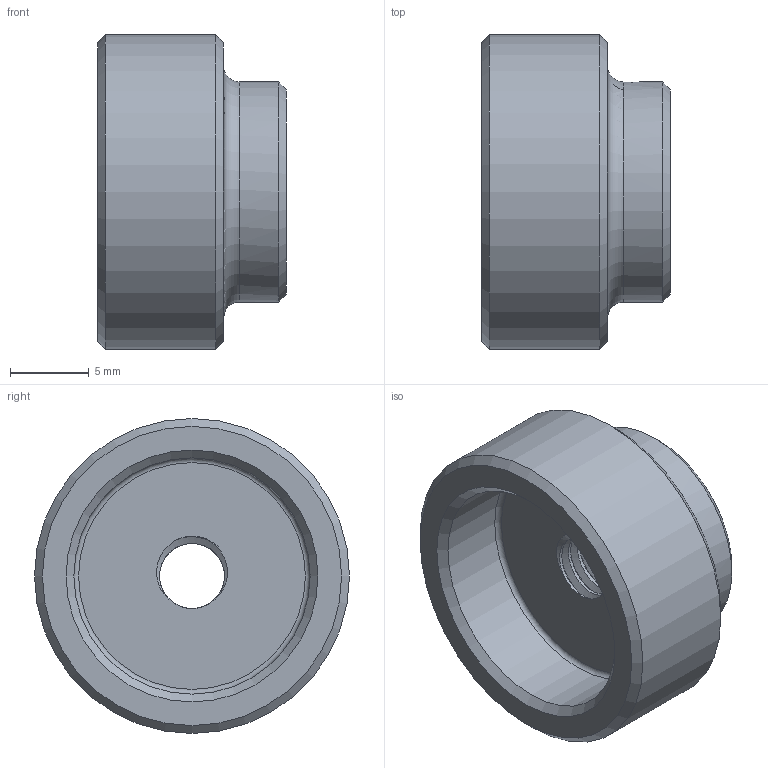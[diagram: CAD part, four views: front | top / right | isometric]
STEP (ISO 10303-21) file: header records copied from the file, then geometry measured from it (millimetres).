
FILE_DESCRIPTION(('STEP AP203'), '1');
FILE_NAME('À00080.1051', '2025-03-13T10:05:17', ('1'), (''), 'C3D Converter', 'C3D Toolkit', '');
FILE_SCHEMA(('CONFIG_CONTROL_DESIGN'));
Length unit declared in the file: millimetre
Bounding box: 12 x 20 x 20 mm (x, y, z)
Volume: 2103.7 mm3; surface area: 1590.8 mm2
Topology: 1 solids, 1 shells, 28 faces, 73 edges, 50 vertices
Faces by surface type: cylinder 10, bspline 7, cone 5, plane 4, torus 2
Full cylindrical faces by diameter (mm): 1.4 x1, 14 x1, 15 x1, 20 x1
Entity records: 8032 total; most frequent: CARTESIAN_POINT 7207, ORIENTED_EDGE 122, DIRECTION 79, EDGE_CURVE 61, VERTEX_POINT 46, B_SPLINE_CURVE_WITH_KNOTS 43, EDGE_LOOP 43, AXIS2_PLACEMENT_3D 38
